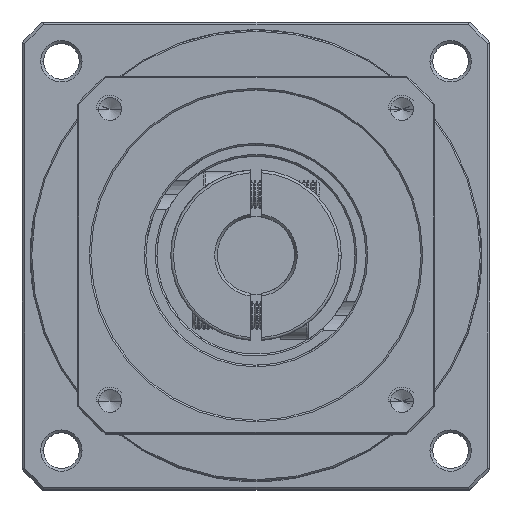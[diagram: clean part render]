
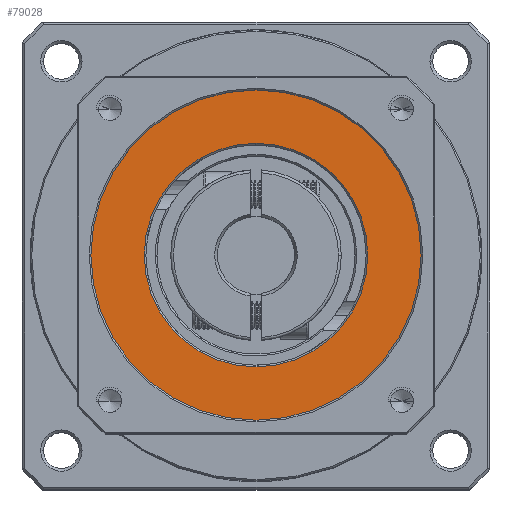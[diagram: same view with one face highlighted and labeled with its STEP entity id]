
A CAD part, top view. The second image highlights one B-rep face of the part: STEP entity #79028.
In plain terms, the highlighted planar face has unit normal (0, 0, 1).
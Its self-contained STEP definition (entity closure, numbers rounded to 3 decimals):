
#409 = ORIENTED_EDGE ( 'NONE', *, *, #129400, .T. ) ;
#3616 = CIRCLE ( 'NONE', #128441, 30. ) ;
#4169 = CIRCLE ( 'NONE', #85620, 20.3 ) ;
#5844 = ORIENTED_EDGE ( 'NONE', *, *, #37817, .T. ) ;
#8227 = EDGE_LOOP ( 'NONE', ( #88755, #5844 ) ) ;
#9150 = EDGE_CURVE ( 'NONE', #91047, #57691, #108685, .T. ) ;
#10194 = DIRECTION ( 'NONE',  ( 1., 0., 0. ) ) ;
#22969 = ORIENTED_EDGE ( 'NONE', *, *, #9150, .T. ) ;
#26123 = CARTESIAN_POINT ( 'NONE',  ( -43.755, 52.979, -19.316 ) ) ;
#32529 = DIRECTION ( 'NONE',  ( 0., 0., -1. ) ) ;
#35220 = EDGE_CURVE ( 'NONE', #72816, #55147, #98081, .T. ) ;
#35700 = CARTESIAN_POINT ( 'NONE',  ( -43.755, 52.979, -19.316 ) ) ;
#37817 = EDGE_CURVE ( 'NONE', #55147, #72816, #4169, .T. ) ;
#42457 = DIRECTION ( 'NONE',  ( 1., 0., 0. ) ) ;
#45920 = DIRECTION ( 'NONE',  ( 1., 0., 0. ) ) ;
#55147 = VERTEX_POINT ( 'NONE', #103005 ) ;
#57691 = VERTEX_POINT ( 'NONE', #102505 ) ;
#59733 = CARTESIAN_POINT ( 'NONE',  ( -13.755, 52.979, -19.316 ) ) ;
#62105 = PLANE ( 'NONE',  #110272 ) ;
#64346 = DIRECTION ( 'NONE',  ( 0., 0., 1. ) ) ;
#71319 = CARTESIAN_POINT ( 'NONE',  ( -43.755, 52.979, -19.316 ) ) ;
#72816 = VERTEX_POINT ( 'NONE', #119169 ) ;
#73892 = EDGE_LOOP ( 'NONE', ( #22969, #409 ) ) ;
#74359 = FACE_OUTER_BOUND ( 'NONE', #73892, .T. ) ;
#79028 = ADVANCED_FACE ( 'NONE', ( #87158, #74359 ), #62105, .T. ) ;
#81080 = DIRECTION ( 'NONE',  ( 1., 0., 0. ) ) ;
#85620 = AXIS2_PLACEMENT_3D ( 'NONE', #71319, #32529, #10194 ) ;
#87158 = FACE_BOUND ( 'NONE', #8227, .T. ) ;
#88755 = ORIENTED_EDGE ( 'NONE', *, *, #35220, .T. ) ;
#91047 = VERTEX_POINT ( 'NONE', #59733 ) ;
#96372 = AXIS2_PLACEMENT_3D ( 'NONE', #102023, #101573, #81080 ) ;
#97439 = AXIS2_PLACEMENT_3D ( 'NONE', #26123, #106812, #116595 ) ;
#98081 = CIRCLE ( 'NONE', #96372, 20.3 ) ;
#101573 = DIRECTION ( 'NONE',  ( 0., 0., -1. ) ) ;
#102023 = CARTESIAN_POINT ( 'NONE',  ( -43.755, 52.979, -19.316 ) ) ;
#102505 = CARTESIAN_POINT ( 'NONE',  ( -73.755, 52.979, -19.316 ) ) ;
#103005 = CARTESIAN_POINT ( 'NONE',  ( -64.055, 52.979, -19.316 ) ) ;
#106812 = DIRECTION ( 'NONE',  ( 0., 0., 1. ) ) ;
#106966 = DIRECTION ( 'NONE',  ( 0., 0., 1. ) ) ;
#108685 = CIRCLE ( 'NONE', #97439, 30. ) ;
#110272 = AXIS2_PLACEMENT_3D ( 'NONE', #113704, #64346, #42457 ) ;
#113704 = CARTESIAN_POINT ( 'NONE',  ( -43.755, 52.979, -19.316 ) ) ;
#116595 = DIRECTION ( 'NONE',  ( 1., 0., 0. ) ) ;
#119169 = CARTESIAN_POINT ( 'NONE',  ( -23.455, 52.979, -19.316 ) ) ;
#128441 = AXIS2_PLACEMENT_3D ( 'NONE', #35700, #106966, #45920 ) ;
#129400 = EDGE_CURVE ( 'NONE', #57691, #91047, #3616, .T. ) ;
